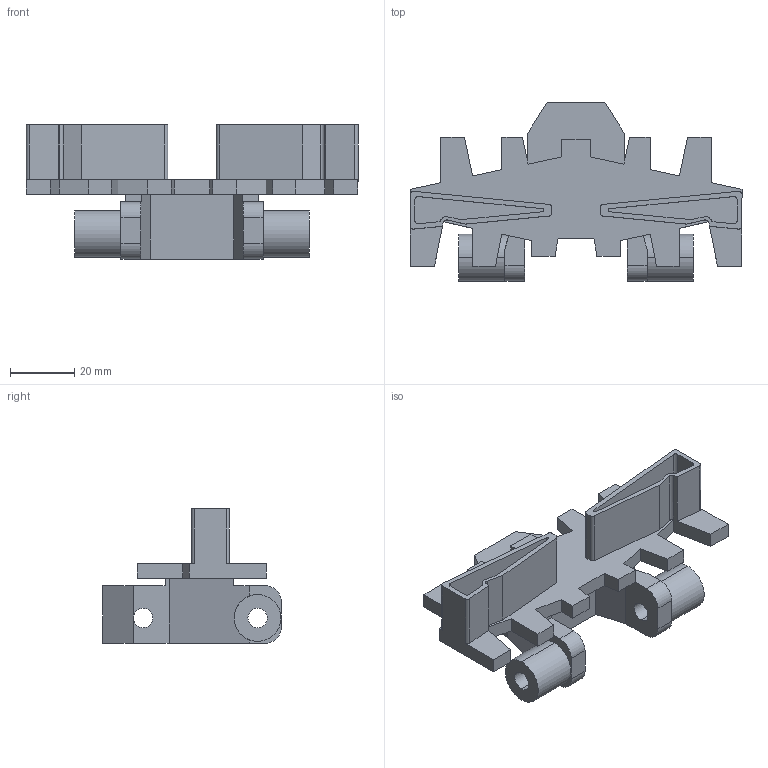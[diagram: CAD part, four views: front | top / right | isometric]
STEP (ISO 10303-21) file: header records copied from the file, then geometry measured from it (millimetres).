
FILE_DESCRIPTION (( 'STEP AP214' ), '1' );
FILE_NAME ('FCCT-5A17.STEP', '2011-04-14T11:15:46', ( '.' ), ( '' ), 'SwSTEP 2.0', 'SolidWorks 2010', '' );
FILE_SCHEMA (( 'AUTOMOTIVE_DESIGN' ));
Length unit declared in the file: millimetre
Products named in the file (1): FCCT-5A17
Bounding box: 103 x 55.39 x 41.75 mm (x, y, z)
Volume: 43809.7 mm3; surface area: 21695 mm2
Topology: 1 solids, 1 shells, 137 faces, 394 edges, 262 vertices
Faces by surface type: plane 101, cylinder 36
Entity records: 4514 total; most frequent: CARTESIAN_POINT 800, ORIENTED_EDGE 788, DIRECTION 744, EDGE_CURVE 394, LINE 316, VECTOR 316, VERTEX_POINT 262, AXIS2_PLACEMENT_3D 214
